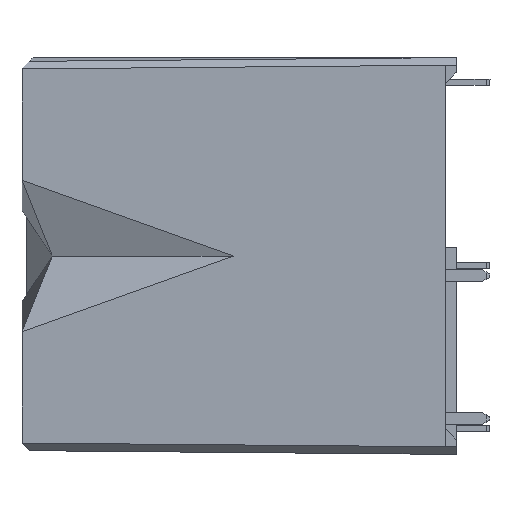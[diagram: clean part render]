
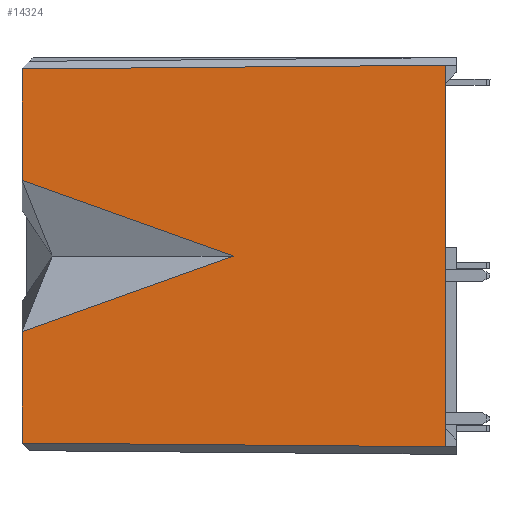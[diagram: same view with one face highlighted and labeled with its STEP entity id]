
A CAD part, left-side view. The second image highlights one B-rep face of the part: STEP entity #14324.
In plain terms, the highlighted planar face has unit normal (-1, 0.009, 0).
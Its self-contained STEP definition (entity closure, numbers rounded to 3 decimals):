
#3519=ORIENTED_EDGE('',*,*,#6194,.F.);
#3520=ORIENTED_EDGE('',*,*,#6195,.T.);
#3521=ORIENTED_EDGE('',*,*,#6152,.T.);
#3522=ORIENTED_EDGE('',*,*,#6196,.T.);
#3523=ORIENTED_EDGE('',*,*,#6197,.F.);
#3524=ORIENTED_EDGE('',*,*,#6198,.T.);
#3525=ORIENTED_EDGE('',*,*,#6199,.F.);
#3526=ORIENTED_EDGE('',*,*,#6200,.F.);
#3527=ORIENTED_EDGE('',*,*,#6201,.F.);
#3528=ORIENTED_EDGE('',*,*,#6202,.F.);
#3529=ORIENTED_EDGE('',*,*,#6203,.T.);
#6152=EDGE_CURVE('',#7734,#7733,#9471,.T.);
#6194=EDGE_CURVE('',#7766,#7767,#9511,.T.);
#6195=EDGE_CURVE('',#7766,#7734,#9512,.T.);
#6196=EDGE_CURVE('',#7733,#7768,#9513,.T.);
#6197=EDGE_CURVE('',#7769,#7768,#9514,.T.);
#6198=EDGE_CURVE('',#7769,#7770,#9515,.T.);
#6199=EDGE_CURVE('',#7771,#7770,#9516,.T.);
#6200=EDGE_CURVE('',#7772,#7771,#9517,.T.);
#6201=EDGE_CURVE('',#7773,#7772,#9518,.T.);
#6202=EDGE_CURVE('',#7774,#7773,#9519,.T.);
#6203=EDGE_CURVE('',#7774,#7767,#9520,.T.);
#7733=VERTEX_POINT('',#24649);
#7734=VERTEX_POINT('',#24651);
#7766=VERTEX_POINT('',#24734);
#7767=VERTEX_POINT('',#24735);
#7768=VERTEX_POINT('',#24738);
#7769=VERTEX_POINT('',#24740);
#7770=VERTEX_POINT('',#24742);
#7771=VERTEX_POINT('',#24744);
#7772=VERTEX_POINT('',#24746);
#7773=VERTEX_POINT('',#24748);
#7774=VERTEX_POINT('',#24750);
#9471=LINE('',#24650,#11273);
#9511=LINE('',#24733,#11313);
#9512=LINE('',#24736,#11314);
#9513=LINE('',#24737,#11315);
#9514=LINE('',#24739,#11316);
#9515=LINE('',#24741,#11317);
#9516=LINE('',#24743,#11318);
#9517=LINE('',#24745,#11319);
#9518=LINE('',#24747,#11320);
#9519=LINE('',#24749,#11321);
#9520=LINE('',#24751,#11322);
#11273=VECTOR('',#18369,1000.);
#11313=VECTOR('',#18431,1000.);
#11314=VECTOR('',#18432,1000.);
#11315=VECTOR('',#18433,1000.);
#11316=VECTOR('',#18434,1000.);
#11317=VECTOR('',#18435,1000.);
#11318=VECTOR('',#18436,1000.);
#11319=VECTOR('',#18437,1000.);
#11320=VECTOR('',#18438,1000.);
#11321=VECTOR('',#18439,1000.);
#11322=VECTOR('',#18440,1000.);
#12134=EDGE_LOOP('',(#3519,#3520,#3521,#3522,#3523,#3524,#3525,#3526,#3527,
#3528,#3529));
#12958=FACE_BOUND('',#12134,.T.);
#13652=PLANE('',#15282);
#14324=ADVANCED_FACE('',(#12958),#13652,.T.);
#15282=AXIS2_PLACEMENT_3D('',#24732,#18429,#18430);
#18369=DIRECTION('',(0.,0.,1.));
#18429=DIRECTION('',(-1.,0.009,0.));
#18430=DIRECTION('',(0.,0.,-1.));
#18431=DIRECTION('',(0.009,1.,0.009));
#18432=DIRECTION('',(0.,0.,1.));
#18433=DIRECTION('',(0.,0.,1.));
#18434=DIRECTION('',(-0.009,-1.,0.009));
#18435=DIRECTION('',(0.,0.,-1.));
#18436=DIRECTION('',(0.004,0.414,0.91));
#18437=DIRECTION('',(0.008,0.941,0.337));
#18438=DIRECTION('',(-0.008,-0.941,0.337));
#18439=DIRECTION('',(-0.004,-0.414,0.91));
#18440=DIRECTION('',(0.,0.,-1.));
#24649=CARTESIAN_POINT('',(-38.1,-3.75,43.55));
#24650=CARTESIAN_POINT('',(-38.1,-3.75,-3.5));
#24651=CARTESIAN_POINT('',(-38.1,-3.75,-2.05));
#24732=CARTESIAN_POINT('',(-37.611,52.258,-4.51));
#24733=CARTESIAN_POINT('',(-37.611,52.254,-4.011));
#24734=CARTESIAN_POINT('',(-38.1,-3.75,-4.5));
#24735=CARTESIAN_POINT('',(-37.611,52.25,-4.011));
#24736=CARTESIAN_POINT('',(-38.1,-3.75,-4.5));
#24737=CARTESIAN_POINT('',(-38.1,-3.75,-3.5));
#24738=CARTESIAN_POINT('',(-38.1,-3.75,46.));
#24739=CARTESIAN_POINT('',(-37.607,52.694,45.507));
#24740=CARTESIAN_POINT('',(-37.611,52.25,45.511));
#24741=CARTESIAN_POINT('',(-37.611,52.25,23.949));
#24742=CARTESIAN_POINT('',(-37.611,52.25,30.793));
#24743=CARTESIAN_POINT('',(-37.727,38.953,1.537));
#24744=CARTESIAN_POINT('',(-37.611,52.234,30.758));
#24745=CARTESIAN_POINT('',(-37.709,41.058,26.755));
#24746=CARTESIAN_POINT('',(-37.855,24.297,20.75));
#24747=CARTESIAN_POINT('',(-37.569,57.097,8.999));
#24748=CARTESIAN_POINT('',(-37.611,52.234,10.742));
#24749=CARTESIAN_POINT('',(-37.561,57.983,-1.908));
#24750=CARTESIAN_POINT('',(-37.611,52.25,10.707));
#24751=CARTESIAN_POINT('',(-37.611,52.25,-4.51));
